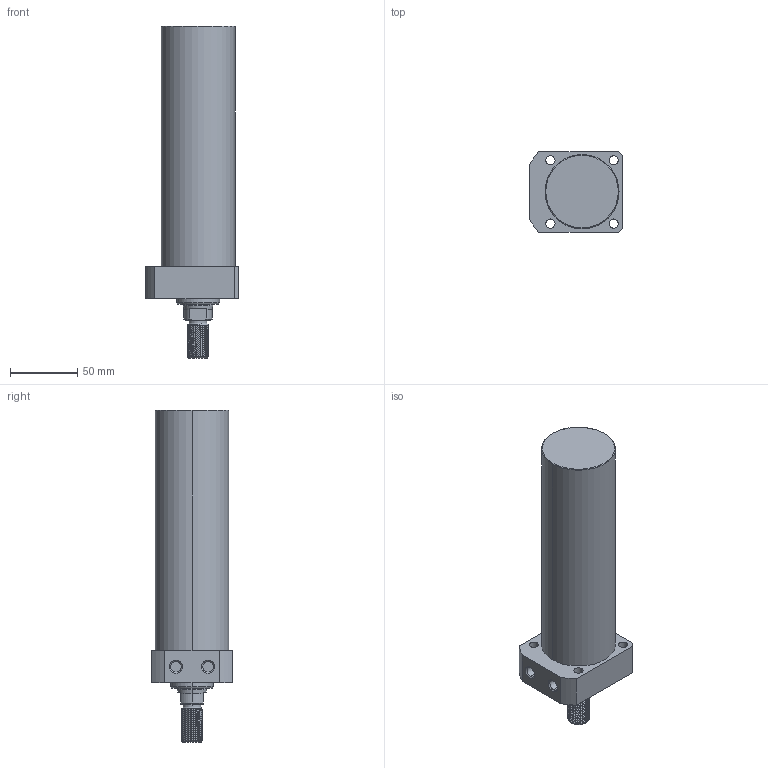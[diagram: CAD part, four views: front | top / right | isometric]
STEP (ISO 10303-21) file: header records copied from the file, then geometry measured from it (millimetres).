
FILE_DESCRIPTION (( 'STEP AP214' ), '1' );
FILE_NAME ('CLLR-055CT-150.STEP', '2020-01-10T01:03:24', ( 'Windows' ), ( 'Microsoft' ), 'SwSTEP 2.0', 'SolidWorks 2015', '' );
FILE_SCHEMA (( 'AUTOMOTIVE_DESIGN' ));
Length unit declared in the file: millimetre
Products named in the file (1): CLLR-055CT-150
Bounding box: 69 x 60 x 247 mm (x, y, z)
Volume: 530049.5 mm3; surface area: 50691.6 mm2
Topology: 1 solids, 1 shells, 101 faces, 259 edges, 168 vertices
Faces by surface type: cylinder 62, plane 20, cone 15, torus 2, bspline 2
Entity records: 5009 total; most frequent: CARTESIAN_POINT 2619, ORIENTED_EDGE 518, DIRECTION 458, EDGE_CURVE 259, AXIS2_PLACEMENT_3D 180, VERTEX_POINT 168, EDGE_LOOP 117, ADVANCED_FACE 101
